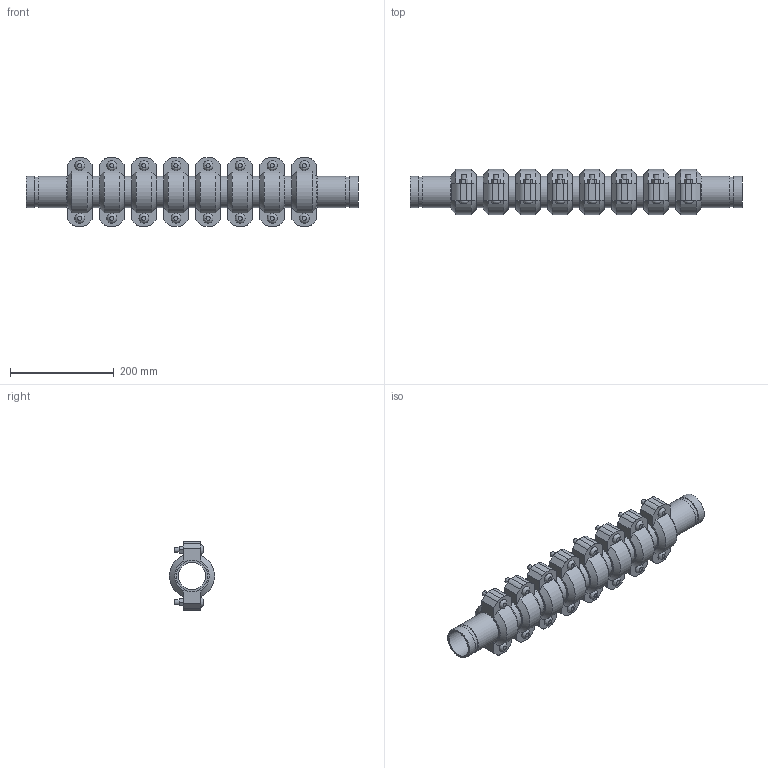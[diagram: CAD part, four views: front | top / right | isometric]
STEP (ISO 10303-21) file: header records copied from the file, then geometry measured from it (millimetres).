
FILE_DESCRIPTION(/* description */ ('VIC EXPANSION JOINT 8 COUPLINGS EXPANDED STYLE 155 (OGS)','CAx-IF Rec.Pracs.---Representation and Presentation of Product Manufacturing Information (PMI)---4.0---2014-10-13'),/* implementation_level */ '2;1');
FILE_NAME(/* name */ 'C:\Users\kkamble\AppData\Roaming\Autodesk\ApplicationPlugins\Victaulic.Temp\A413\Victaulic_IPS_Expansion Joint_Expanded_8 Couplings_Style 155 (OGS)_2 (50).stp',/* time_stamp */ '2021-06-27T00:08:48+02:00',/* author */ ('kkamble'),/* organization */ ('Victaulic'),/* preprocessor_version */ 'ST-DEVELOPER v17.2',/* originating_system */ 'Autodesk Inventor 2019',/* authorisation */ '');
FILE_SCHEMA (('AP242_MANAGED_MODEL_BASED_3D_ENGINEERING_MIM_LF { 1 0 10303 442 1 1 4 }'));
Length unit declared in the file: inch
Products named in the file (4): 155-02.0; Nipple-02.0; Nipple-02.0_1; 075-02.0
Assembly tree (17 placements, depth 2):
  155-02.0
    Nipple-02.0  x2
    Nipple-02.0_1  x7
    075-02.0  x8
Bounding box: 641.35 x 87.12 x 132.59 mm (x, y, z)
Volume: 2001095.5 mm3; surface area: 563270 mm2
Topology: 17 solids, 33 shells, 564 faces, 1334 edges, 936 vertices
Faces by surface type: plane 342, cylinder 174, cone 32, bspline 16
Full cylindrical faces by diameter (mm): 9.525 x32, 11.43 x16, 52.502 x9, 53.975 x8, 57.15 x18, 60.325 x43
Entity records: 2849 total; most frequent: CARTESIAN_POINT 501, DIRECTION 477, ORIENTED_EDGE 386, EDGE_CURVE 193, AXIS2_PLACEMENT_3D 192, VERTEX_POINT 138, EDGE_LOOP 107, LINE 93
